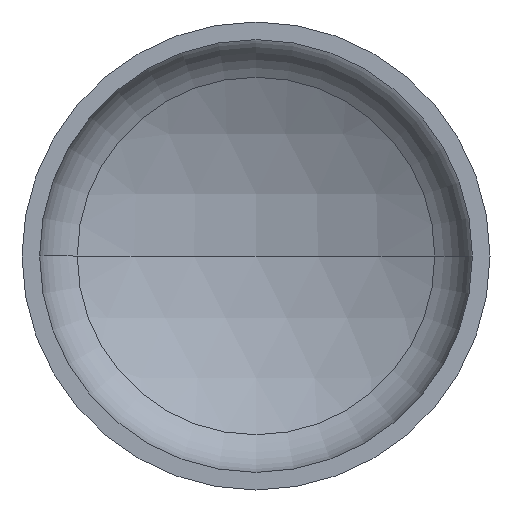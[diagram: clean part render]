
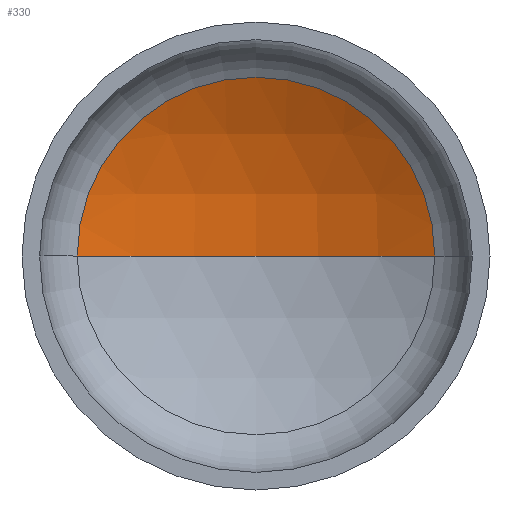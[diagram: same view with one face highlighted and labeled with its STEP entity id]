
A CAD part, front view. The second image highlights one B-rep face of the part: STEP entity #330.
In plain terms, the highlighted spherical face has radius 2080 mm.
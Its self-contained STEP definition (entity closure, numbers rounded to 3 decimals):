
#9 = DIRECTION ( 'NONE',  ( -1., 0., 0. ) ) ;
#17 = EDGE_LOOP ( 'NONE', ( #28, #23, #122 ) ) ;
#19 = VERTEX_POINT ( 'NONE', #300 ) ;
#22 = DIRECTION ( 'NONE',  ( 0., -1., 0. ) ) ;
#23 = ORIENTED_EDGE ( 'NONE', *, *, #186, .T. ) ;
#28 = ORIENTED_EDGE ( 'NONE', *, *, #207, .F. ) ;
#29 = CARTESIAN_POINT ( 'NONE',  ( 0., 451.479, 0. ) ) ;
#33 = AXIS2_PLACEMENT_3D ( 'NONE', #268, #164, #9 ) ;
#52 = AXIS2_PLACEMENT_3D ( 'NONE', #259, #257, #256 ) ;
#58 = AXIS2_PLACEMENT_3D ( 'NONE', #196, #224, #375 ) ;
#60 = AXIS2_PLACEMENT_3D ( 'NONE', #29, #22, #123 ) ;
#61 = VERTEX_POINT ( 'NONE', #354 ) ;
#114 = VERTEX_POINT ( 'NONE', #346 ) ;
#122 = ORIENTED_EDGE ( 'NONE', *, *, #177, .T. ) ;
#123 = DIRECTION ( 'NONE',  ( 1., 0., 0. ) ) ;
#164 = DIRECTION ( 'NONE',  ( 0., 0., -1. ) ) ;
#177 = EDGE_CURVE ( 'NONE', #19, #61, #258, .T. ) ;
#186 = EDGE_CURVE ( 'NONE', #114, #19, #308, .T. ) ;
#196 = CARTESIAN_POINT ( 'NONE',  ( 0., -1376.21, 0. ) ) ;
#207 = EDGE_CURVE ( 'NONE', #114, #61, #301, .T. ) ;
#223 = SPHERICAL_SURFACE ( 'NONE', #33, 2080. ) ;
#224 = DIRECTION ( 'NONE',  ( 0., 0., -1. ) ) ;
#256 = DIRECTION ( 'NONE',  ( 1., 0., 0. ) ) ;
#257 = DIRECTION ( 'NONE',  ( 0., 0., 1. ) ) ;
#258 = CIRCLE ( 'NONE', #60, 992.952 ) ;
#259 = CARTESIAN_POINT ( 'NONE',  ( 0., -1376.21, 0. ) ) ;
#268 = CARTESIAN_POINT ( 'NONE',  ( 0., -1376.21, 0. ) ) ;
#279 = FACE_OUTER_BOUND ( 'NONE', #17, .T. ) ;
#300 = CARTESIAN_POINT ( 'NONE',  ( 992.952, 451.479, 0. ) ) ;
#301 = CIRCLE ( 'NONE', #52, 2080. ) ;
#308 = CIRCLE ( 'NONE', #58, 2080. ) ;
#330 = ADVANCED_FACE ( 'NONE', ( #279 ), #223, .F. ) ;
#346 = CARTESIAN_POINT ( 'NONE',  ( 0., 703.79, 0. ) ) ;
#354 = CARTESIAN_POINT ( 'NONE',  ( -992.952, 451.479, 0. ) ) ;
#375 = DIRECTION ( 'NONE',  ( -1., 0., 0. ) ) ;
